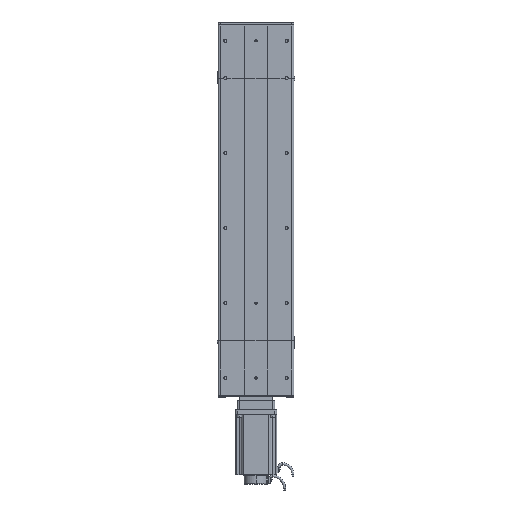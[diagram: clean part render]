
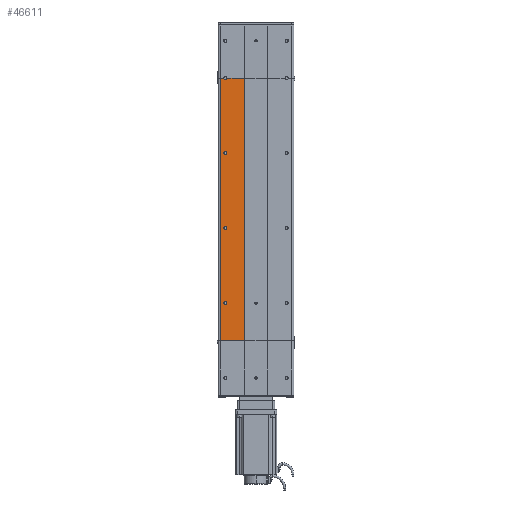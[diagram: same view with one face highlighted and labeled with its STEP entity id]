
A CAD part, front view. The second image highlights one B-rep face of the part: STEP entity #46611.
In plain terms, the highlighted planar face has unit normal (0, -1, 0).
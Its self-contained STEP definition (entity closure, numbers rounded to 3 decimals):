
#30547 = CARTESIAN_POINT ( 'NONE',  ( -86., -34.5, 100. ) ) ;
#30631 = CARTESIAN_POINT ( 'NONE',  ( -78., -34.5, 700. ) ) ;
#30885 = LINE ( 'NONE', #30897, #30895 ) ;
#30894 = DIRECTION ( 'NONE',  ( 1., 0., 0. ) ) ;
#30895 = VECTOR ( 'NONE', #30894, 1000. ) ;
#30897 = CARTESIAN_POINT ( 'NONE',  ( -96., -34.5, 700. ) ) ;
#31322 = CARTESIAN_POINT ( 'NONE',  ( -86., -34.5, 700. ) ) ;
#31412 = CARTESIAN_POINT ( 'NONE',  ( -30., -34.5, 700. ) ) ;
#31665 = DIRECTION ( 'NONE',  ( 1., 0., 0. ) ) ;
#31667 = DIRECTION ( 'NONE',  ( 0., -1., 0. ) ) ;
#31669 = CARTESIAN_POINT ( 'NONE',  ( -82., -34.5, 100. ) ) ;
#31686 = AXIS2_PLACEMENT_3D ( 'NONE', #31669, #31667, #31665 ) ;
#31687 = CIRCLE ( 'NONE', #31686, 4. ) ;
#31707 = CARTESIAN_POINT ( 'NONE',  ( -78., -34.5, 100. ) ) ;
#31912 = DIRECTION ( 'NONE',  ( 1., 0., 0. ) ) ;
#31913 = VECTOR ( 'NONE', #31912, 1000. ) ;
#31944 = CARTESIAN_POINT ( 'NONE',  ( -96., -34.5, 700. ) ) ;
#31945 = LINE ( 'NONE', #31944, #31913 ) ;
#31952 = DIRECTION ( 'NONE',  ( -1., 0., 0. ) ) ;
#31953 = DIRECTION ( 'NONE',  ( 0., 1., 0. ) ) ;
#31954 = CARTESIAN_POINT ( 'NONE',  ( -96., -34.5, 700. ) ) ;
#31955 = AXIS2_PLACEMENT_3D ( 'NONE', #31954, #31953, #31952 ) ;
#31988 = FACE_BOUND ( 'NONE', #47012, .T. ) ;
#32001 = FACE_OUTER_BOUND ( 'NONE', #46753, .T. ) ;
#32007 = FACE_BOUND ( 'NONE', #46612, .T. ) ;
#32015 = FACE_BOUND ( 'NONE', #46699, .T. ) ;
#32203 = PLANE ( 'NONE',  #31955 ) ;
#32448 = CARTESIAN_POINT ( 'NONE',  ( -96., -34.5, 700. ) ) ;
#32582 = DIRECTION ( 'NONE',  ( 0., 0., -1. ) ) ;
#32583 = VECTOR ( 'NONE', #32582, 1000. ) ;
#32584 = CARTESIAN_POINT ( 'NONE',  ( -96., -34.5, 700. ) ) ;
#32595 = DIRECTION ( 'NONE',  ( 1., 0., 0. ) ) ;
#32597 = DIRECTION ( 'NONE',  ( 0., -1., 0. ) ) ;
#32598 = AXIS2_PLACEMENT_3D ( 'NONE', #32827, #32597, #32595 ) ;
#32625 = DIRECTION ( 'NONE',  ( 1., 0., 0. ) ) ;
#32626 = DIRECTION ( 'NONE',  ( 0., -1., 0. ) ) ;
#32627 = AXIS2_PLACEMENT_3D ( 'NONE', #32640, #32626, #32625 ) ;
#32640 = CARTESIAN_POINT ( 'NONE',  ( -82., -34.5, 700. ) ) ;
#32728 = CIRCLE ( 'NONE', #32598, 4. ) ;
#32733 = LINE ( 'NONE', #32584, #32583 ) ;
#32826 = CARTESIAN_POINT ( 'NONE',  ( -30., -34.5, 0. ) ) ;
#32827 = CARTESIAN_POINT ( 'NONE',  ( -82., -34.5, 300. ) ) ;
#32939 = CIRCLE ( 'NONE', #32627, 4. ) ;
#33004 = DIRECTION ( 'NONE',  ( 1., 0., 0. ) ) ;
#33005 = DIRECTION ( 'NONE',  ( 0., -1., 0. ) ) ;
#33006 = CARTESIAN_POINT ( 'NONE',  ( -82., -34.5, 100. ) ) ;
#33007 = AXIS2_PLACEMENT_3D ( 'NONE', #33006, #33005, #33004 ) ;
#33019 = CIRCLE ( 'NONE', #33007, 4. ) ;
#33021 = DIRECTION ( 'NONE',  ( 0., 0., 1. ) ) ;
#33023 = VECTOR ( 'NONE', #33021, 1000. ) ;
#33024 = CARTESIAN_POINT ( 'NONE',  ( -30., -34.5, 0. ) ) ;
#33147 = DIRECTION ( 'NONE',  ( 1., 0., 0. ) ) ;
#33149 = DIRECTION ( 'NONE',  ( 0., -1., 0. ) ) ;
#33151 = CARTESIAN_POINT ( 'NONE',  ( -82., -34.5, 500. ) ) ;
#33153 = AXIS2_PLACEMENT_3D ( 'NONE', #33151, #33149, #33147 ) ;
#33154 = CIRCLE ( 'NONE', #33153, 4. ) ;
#33156 = LINE ( 'NONE', #33024, #33023 ) ;
#33476 = LINE ( 'NONE', #33675, #33851 ) ;
#33674 = DIRECTION ( 'NONE',  ( 1., 0., 0. ) ) ;
#33675 = CARTESIAN_POINT ( 'NONE',  ( -96., -34.5, 0. ) ) ;
#33851 = VECTOR ( 'NONE', #33674, 1000. ) ;
#34231 = CARTESIAN_POINT ( 'NONE',  ( -96., -34.5, 0. ) ) ;
#35634 = CARTESIAN_POINT ( 'NONE',  ( -86., -34.5, 300. ) ) ;
#35852 = CARTESIAN_POINT ( 'NONE',  ( -78., -34.5, 300. ) ) ;
#46088 = VERTEX_POINT ( 'NONE', #65859 ) ;
#46116 = EDGE_CURVE ( 'NONE', #46238, #46214, #65499, .T. ) ;
#46143 = VERTEX_POINT ( 'NONE', #65716 ) ;
#46144 = EDGE_CURVE ( 'NONE', #46088, #46143, #65724, .T. ) ;
#46214 = VERTEX_POINT ( 'NONE', #35852 ) ;
#46238 = VERTEX_POINT ( 'NONE', #35634 ) ;
#46324 = VERTEX_POINT ( 'NONE', #30547 ) ;
#46386 = VERTEX_POINT ( 'NONE', #30631 ) ;
#46408 = EDGE_CURVE ( 'NONE', #46386, #46423, #30885, .T. ) ;
#46423 = VERTEX_POINT ( 'NONE', #31412 ) ;
#46435 = VERTEX_POINT ( 'NONE', #31322 ) ;
#46507 = VERTEX_POINT ( 'NONE', #31707 ) ;
#46543 = EDGE_CURVE ( 'NONE', #46324, #46507, #31687, .T. ) ;
#46608 = ORIENTED_EDGE ( 'NONE', *, *, #46784, .F. ) ;
#46611 = ADVANCED_FACE ( 'NONE', ( #32007, #32015, #31988, #32001 ), #32203, .F. ) ;
#46612 = EDGE_LOOP ( 'NONE', ( #46608, #46927 ) ) ;
#46614 = EDGE_CURVE ( 'NONE', #46654, #46435, #31945, .T. ) ;
#46654 = VERTEX_POINT ( 'NONE', #32448 ) ;
#46699 = EDGE_LOOP ( 'NONE', ( #46785, #46791 ) ) ;
#46700 = EDGE_CURVE ( 'NONE', #46214, #46238, #32728, .T. ) ;
#46701 = ORIENTED_EDGE ( 'NONE', *, *, #46543, .F. ) ;
#46703 = VERTEX_POINT ( 'NONE', #32826 ) ;
#46705 = EDGE_CURVE ( 'NONE', #46654, #46926, #32733, .T. ) ;
#46749 = ORIENTED_EDGE ( 'NONE', *, *, #46865, .T. ) ;
#46752 = EDGE_CURVE ( 'NONE', #46435, #46386, #32939, .T. ) ;
#46753 = EDGE_LOOP ( 'NONE', ( #46754, #47014, #47013, #47020, #46749, #46891 ) ) ;
#46754 = ORIENTED_EDGE ( 'NONE', *, *, #46408, .F. ) ;
#46784 = EDGE_CURVE ( 'NONE', #46143, #46088, #33154, .T. ) ;
#46785 = ORIENTED_EDGE ( 'NONE', *, *, #46700, .F. ) ;
#46786 = EDGE_CURVE ( 'NONE', #46703, #46423, #33156, .T. ) ;
#46790 = ORIENTED_EDGE ( 'NONE', *, *, #46794, .F. ) ;
#46791 = ORIENTED_EDGE ( 'NONE', *, *, #46116, .F. ) ;
#46794 = EDGE_CURVE ( 'NONE', #46507, #46324, #33019, .T. ) ;
#46865 = EDGE_CURVE ( 'NONE', #46926, #46703, #33476, .T. ) ;
#46891 = ORIENTED_EDGE ( 'NONE', *, *, #46786, .T. ) ;
#46926 = VERTEX_POINT ( 'NONE', #34231 ) ;
#46927 = ORIENTED_EDGE ( 'NONE', *, *, #46144, .F. ) ;
#47012 = EDGE_LOOP ( 'NONE', ( #46790, #46701 ) ) ;
#47013 = ORIENTED_EDGE ( 'NONE', *, *, #46614, .F. ) ;
#47014 = ORIENTED_EDGE ( 'NONE', *, *, #46752, .F. ) ;
#47020 = ORIENTED_EDGE ( 'NONE', *, *, #46705, .T. ) ;
#65499 = CIRCLE ( 'NONE', #65841, 4. ) ;
#65534 = DIRECTION ( 'NONE',  ( 1., 0., 0. ) ) ;
#65535 = DIRECTION ( 'NONE',  ( 0., -1., 0. ) ) ;
#65536 = AXIS2_PLACEMENT_3D ( 'NONE', #65719, #65535, #65534 ) ;
#65716 = CARTESIAN_POINT ( 'NONE',  ( -78., -34.5, 500. ) ) ;
#65719 = CARTESIAN_POINT ( 'NONE',  ( -82., -34.5, 500. ) ) ;
#65724 = CIRCLE ( 'NONE', #65536, 4. ) ;
#65838 = DIRECTION ( 'NONE',  ( 1., 0., 0. ) ) ;
#65839 = DIRECTION ( 'NONE',  ( 0., -1., 0. ) ) ;
#65840 = CARTESIAN_POINT ( 'NONE',  ( -82., -34.5, 300. ) ) ;
#65841 = AXIS2_PLACEMENT_3D ( 'NONE', #65840, #65839, #65838 ) ;
#65859 = CARTESIAN_POINT ( 'NONE',  ( -86., -34.5, 500. ) ) ;
